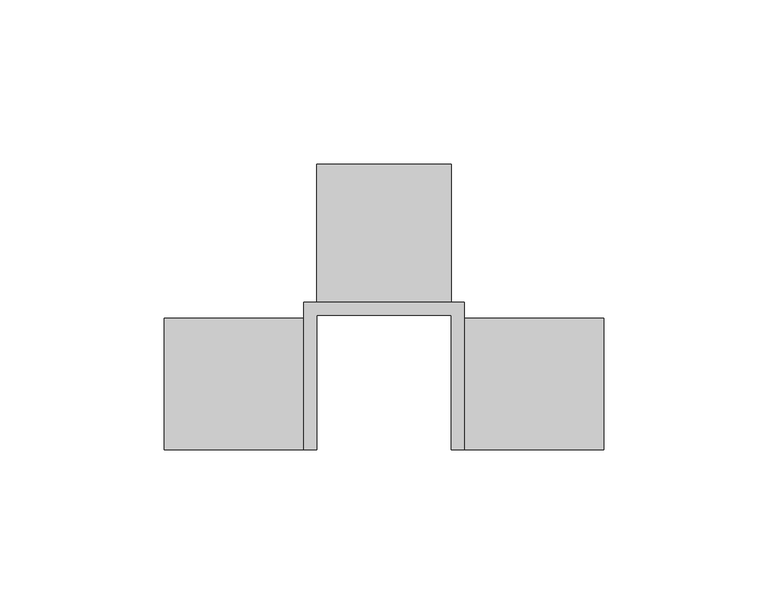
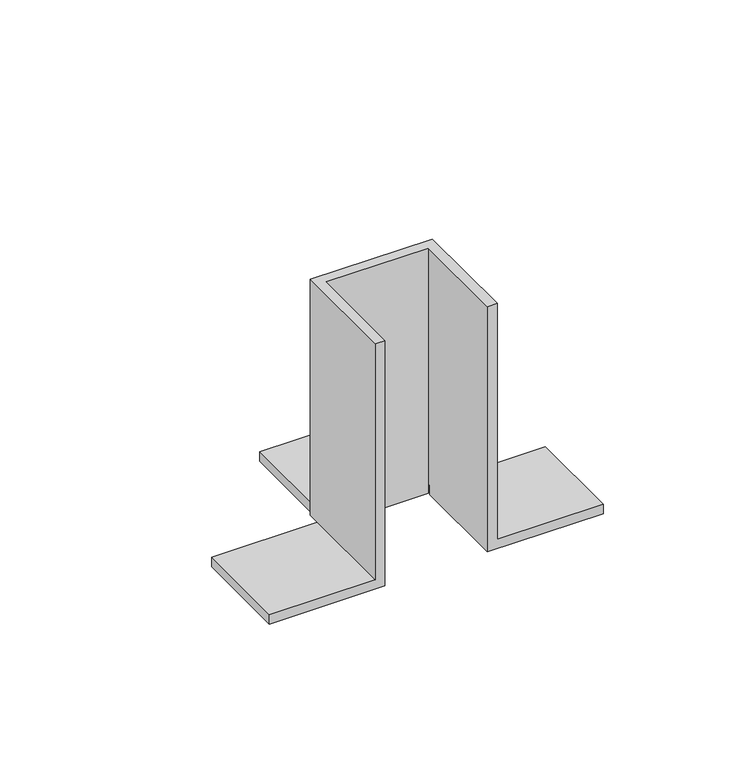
"""IFC4 building model written with IfcOpenShell, lengths in millimetres: proxy geometry, SB41_Base holder-Basorfix : Basorfix SB41 GC70."""

import ifcopenshell
import ifcopenshell.guid

model = None  # the IFC model being written
_history = None  # IfcOwnerHistory: only IFC2X3 demands one
_inside = {}  # id of a spatial element -> (the spatial element, [elements in it])
_under = {}  # id of a project, library or spatial element -> (it, [spatial elements below it])
_declared = {}  # id of a project -> (the project, [libraries it declares])
_typed = {}  # id of a type object -> (the type object, [elements of that type])
_made_of = {}  # id of a material, layer set ... -> (it, [elements and type objects made of it])


def new_model(schema):
    """Start an empty IFC model of exactly this schema.

    Asked for "IFC4X3", IfcOpenShell would pick the latest addendum, in which some entities
    have other attributes; the version numbers below select the first issue.
    IFC2X3 requires an IfcOwnerHistory on every rooted entity: one is made here for all.
    """
    global model, _history
    if schema == "IFC4X3":
        model = ifcopenshell.file(schema_version=(4, 3, 0, 0))
    else:
        model = ifcopenshell.file(schema=schema)
    _inside.clear()
    _under.clear()
    _declared.clear()
    _typed.clear()
    _made_of.clear()
    _history = None
    if model.schema == "IFC2X3":
        org = make("IfcOrganization", Name="unknown")
        user = make(
            "IfcPersonAndOrganization",
            ThePerson=make("IfcPerson", FamilyName="unknown"),
            TheOrganization=org,
        )
        app = make(
            "IfcApplication",
            ApplicationDeveloper=org,
            Version="unknown",
            ApplicationFullName="unknown",
            ApplicationIdentifier="unknown",
        )
        _history = make(
            "IfcOwnerHistory",
            OwningUser=user,
            OwningApplication=app,
            ChangeAction="ADDED",
            CreationDate=0,
        )
    return model


def make(cls, **values):
    """One entity of the class cls with the attributes given. An attribute that is None is left unset."""
    return model.create_entity(
        cls, **{name: value for name, value in values.items() if value is not None}
    )


def rooted(cls, **values):
    """An entity with a GlobalId (a new one), such as an element, a storey or a relation."""
    return make(cls, GlobalId=ifcopenshell.guid.new(), OwnerHistory=_history, **values)


def si_unit(unit_type, name, prefix=None):
    """IfcSIUnit, for example si_unit("LENGTHUNIT", "METRE", prefix="MILLI")."""
    return make("IfcSIUnit", UnitType=unit_type, Prefix=prefix, Name=name)


def assignment(units):
    """IfcUnitAssignment: the units of a project."""
    return None if units is None else make("IfcUnitAssignment", Units=units)


def point(xyz):
    """IfcCartesianPoint."""
    return None if xyz is None else make("IfcCartesianPoint", Coordinates=xyz)


def direction(xyz):
    """IfcDirection."""
    return None if xyz is None else make("IfcDirection", DirectionRatios=xyz)


def frame(location, z_axis=None, x_axis=None):
    """IfcAxis2Placement3D, a coordinate frame: its origin and axes. An axis left out is left unset."""
    return make(
        "IfcAxis2Placement3D",
        Location=point(location),
        Axis=direction(z_axis),
        RefDirection=direction(x_axis),
    )


def origin():
    """The frame at (0, 0, 0) with its axes left unset."""
    return frame((0.0, 0.0, 0.0))


def place(relative_to, where):
    """IfcLocalPlacement: puts the frame where relative to a parent placement (None: the world)."""
    return make(
        "IfcLocalPlacement", PlacementRelTo=relative_to, RelativePlacement=where
    )


def context(
    kind, dimensions, precision=None, world=None, true_north=None, identifier=None
):
    """IfcGeometricRepresentationContext, for example the 3D "Model" context."""
    return make(
        "IfcGeometricRepresentationContext",
        ContextIdentifier=identifier,
        ContextType=kind,
        CoordinateSpaceDimension=dimensions,
        Precision=precision,
        WorldCoordinateSystem=world,
        TrueNorth=true_north,
    )


def project(units=None, contexts=None):
    """IfcProject with its units and contexts."""
    return rooted(
        "IfcProject",
        Name="project",
        RepresentationContexts=contexts,
        UnitsInContext=assignment(units),
    )


def spatial(cls, under=None, at=None, **own):
    """A site, building, storey or space (cls), placed at a placement, below another one or the project."""
    s = rooted(cls, ObjectPlacement=at, **own)
    if under is not None:
        _under.setdefault(under.id(), (under, []))[1].append(s)
    return s


def faces_of(points, faces, orient=None, outer=None):
    """IfcFace entities. A face is a list of loops; a loop is a list of indices into points, from 0.

    orient and outer hold one flag for each loop. By default every Orientation is true, the
    first loop of a face is its IfcFaceOuterBound and the others are IfcFaceBound.
    """
    made = []
    for i, loops in enumerate(faces):
        bounds = []
        for j, loop in enumerate(loops):
            is_outer = j == 0 if outer is None else outer[i][j]
            bounds.append(
                make(
                    "IfcFaceOuterBound" if is_outer else "IfcFaceBound",
                    Bound=make("IfcPolyLoop", Polygon=[points[k] for k in loop]),
                    Orientation=True if orient is None else orient[i][j],
                )
            )
        made.append(make("IfcFace", Bounds=bounds))
    return made


def faceted_brep(points, faces, orient=None, outer=None, voids=None):
    """IfcFacetedBrep: a solid bounded by flat faces; with voids (closed shells), ...WithVoids."""
    shared = [point(p) for p in points]
    hull = make("IfcClosedShell", CfsFaces=faces_of(shared, faces, orient, outer))
    if voids is None:
        return make("IfcFacetedBrep", Outer=hull)
    return make(
        "IfcFacetedBrepWithVoids",
        Outer=hull,
        Voids=[
            make(cls, CfsFaces=faces_of(shared, fs, o, b)) for cls, fs, o, b in voids
        ],
    )


def shape(context_of_items, identifier, shape_type, items):
    """IfcShapeRepresentation: the items that make up one representation, for example the "Body"."""
    return make(
        "IfcShapeRepresentation",
        ContextOfItems=context_of_items,
        RepresentationIdentifier=identifier,
        RepresentationType=shape_type,
        Items=items,
    )


def source(mapping_origin, context_of_items, identifier, shape_type, items):
    """IfcRepresentationMap: a shape defined once, which mapped items show again and again."""
    return make(
        "IfcRepresentationMap",
        MappingOrigin=mapping_origin,
        MappedRepresentation=shape(context_of_items, identifier, shape_type, items),
    )


def transform(
    local_origin,
    x_axis=None,
    y_axis=None,
    z_axis=None,
    scale=None,
    scale2=None,
    scale3=None,
    uniform=True,
):
    """IfcCartesianTransformationOperator3D, or its non-uniform kind. x_axis, y_axis, z_axis: its Axis1, 2, 3."""
    if uniform:
        return make(
            "IfcCartesianTransformationOperator3D",
            Axis1=direction(x_axis),
            Axis2=direction(y_axis),
            LocalOrigin=point(local_origin),
            Scale=scale,
            Axis3=direction(z_axis),
        )
    return make(
        "IfcCartesianTransformationOperator3DnonUniform",
        Axis1=direction(x_axis),
        Axis2=direction(y_axis),
        LocalOrigin=point(local_origin),
        Scale=scale,
        Axis3=direction(z_axis),
        Scale2=scale2,
        Scale3=scale3,
    )


def mapped(mapping_source, mapping_target):
    """IfcMappedItem: shows the shape of a source again, moved by a transform."""
    return make(
        "IfcMappedItem", MappingSource=mapping_source, MappingTarget=mapping_target
    )


def made_of(thing, what):
    """Note that an element or type object is made of a material, layer set ...; save() writes the relation."""
    if what is not None:
        _made_of.setdefault(what.id(), (what, []))[1].append(thing)
    return thing


def element(
    cls,
    number,
    at=None,
    inside=None,
    cuts=None,
    type_object=None,
    material=None,
    context=None,
    identifier="Body",
    shape_type=None,
    held_by="IfcProductDefinitionShape",
    body=None,
    shapes=None,
    **own,
):
    """One element of the class cls, such as IfcWall. Its Tag is "e" and its number.

    at: its placement. inside: the storey or other place that contains it. cuts: it is an
    opening in that element (IfcRelVoidsElement). A single representation is given by context,
    identifier, shape_type and body (its items); several are given by shapes. held_by: the class
    of the entity that holds the representations. save() writes the other relations.
    """
    e = rooted(cls, Tag="e%d" % number, ObjectPlacement=at, **own)
    if body is not None:
        shapes = [shape(context, identifier, shape_type, body)]
    if shapes is not None:
        e.Representation = make(held_by, Representations=shapes)
    if inside is not None:
        _inside.setdefault(inside.id(), (inside, []))[1].append(e)
    if cuts is not None:
        rooted(
            "IfcRelVoidsElement", RelatingBuildingElement=cuts, RelatedOpeningElement=e
        )
    if type_object is not None:
        _typed.setdefault(type_object.id(), (type_object, []))[1].append(e)
    return made_of(e, material)


def aggregate(whole, parts):
    """IfcRelAggregates: a whole, such as a stair, and the parts it consists of."""
    return rooted("IfcRelAggregates", RelatingObject=whole, RelatedObjects=parts)


def save(model, path):
    """Write the relations noted so far, then the file.

    IfcRelAggregates (storeys below a building ...), IfcRelContainedInSpatialStructure (elements
    in a storey), IfcRelDefinesByType, IfcRelAssociatesMaterial and IfcRelDeclares: one each for
    every whole, place, type object, material and project.
    """
    for whole, parts in _under.values():
        aggregate(whole, parts)
    for where, things in _inside.values():
        rooted(
            "IfcRelContainedInSpatialStructure",
            RelatedElements=things,
            RelatingStructure=where,
        )
    for kind, things in _typed.values():
        rooted("IfcRelDefinesByType", RelatedObjects=things, RelatingType=kind)
    for what, things in _made_of.values():
        rooted("IfcRelAssociatesMaterial", RelatedObjects=things, RelatingMaterial=what)
    for by, libraries in _declared.values():
        rooted("IfcRelDeclares", RelatingContext=by, RelatedDefinitions=libraries)
    model.write(path)


def generic_models_2a65ef94(model_context):
    return source(origin(), model_context, "Body", "Brep", [
        faceted_brep([(-20.5, -20.0, 104.0), (-20.5, 21.0, 104.0), (20.5, 21.0, 104.0), (20.5, -20.0, 104.0), (24.5, -20.0, 104.0), (24.5, 25.0, 104.0), (-24.5, 25.0, 104.0), (-24.5, -20.0, 104.0), (-24.5, 20.0, 4.0), (-24.5, 25.0, 4.0), (-20.5, 25.0, 4.0), (-20.5, 21.0, 4.0), (-20.5, 20.0, 4.0), (20.5, 25.0, 4.0), (24.5, 25.0, 4.0), (24.5, 20.0, 4.0), (20.5, 20.0, 4.0), (20.5, 21.0, 4.0), (-20.5, -20.0, 0.0), (-20.5, 20.0, 0.0), (-20.5, 21.0, 0.0), (20.5, 21.0, 0.0), (20.5, 20.0, 0.0), (20.5, -20.0, 0.0), (66.977123, -20.0, 0.0), (66.977123, -20.0, 4.0), (24.5, -20.0, 4.0), (-24.5, -20.0, 4.0), (-66.977123, -20.0, 4.0), (-66.977123, -20.0, 0.0), (-66.977123, 20.0, 4.0), (66.977123, 20.0, 4.0), (20.5, 67.0, 4.0), (-20.5, 67.0, 4.0), (-20.5, 67.0, 0.0), (20.5, 67.0, 0.0), (66.977123, 20.0, 0.0), (-66.977123, 20.0, 0.0)], [[[0, 1, 2, 3, 4, 5, 6, 7]], [[8, 9, 10, 11, 12]], [[13, 14, 15, 16, 17]], [[1, 0, 18, 19, 12, 11]], [[2, 1, 11, 20, 21, 17]], [[3, 2, 17, 16, 22, 23]], [[4, 3, 23, 24, 25, 26]], [[5, 4, 26, 15, 14]], [[6, 5, 14, 13, 10, 9]], [[7, 6, 9, 8, 27]], [[18, 0, 7, 27, 28, 29]], [[30, 28, 27, 8]], [[25, 31, 15, 26]], [[32, 33, 10, 13]], [[21, 20, 34, 35]], [[24, 23, 22, 36]], [[37, 19, 18, 29]], [[28, 30, 37, 29]], [[31, 25, 24, 36]], [[36, 22, 16, 15, 31]], [[19, 37, 30, 8, 12]], [[21, 35, 32, 13, 17]], [[33, 32, 35, 34]], [[34, 20, 11, 10, 33]]]),
    ])


if __name__ == "__main__":
    model = new_model("IFC4")
    model_context = context("Model", 3, world=origin())
    ifc_project = project(units=[si_unit("LENGTHUNIT", "METRE", prefix="MILLI")], contexts=[model_context])
    site = spatial("IfcSite", under=ifc_project)
    building = spatial("IfcBuilding", under=site)
    placement = place(None, origin())
    generic_models_shape = generic_models_2a65ef94(model_context)
    element("IfcBuildingElementProxy", 1, Name="SB41_Base holder-Basorfix : Basorfix SB41 GC70", ObjectType="SB41_Base holder-Basorfix : Basorfix SB41 GC70", at=placement, inside=building, context=model_context, shape_type="MappedRepresentation", body=[
        mapped(generic_models_shape, transform((0.0, 0.0, 0.0), x_axis=(1.0, 0.0, 0.0), y_axis=(0.0, 1.0, 0.0), z_axis=(0.0, 0.0, 1.0))),
    ])
    save(model, "model.ifc")
